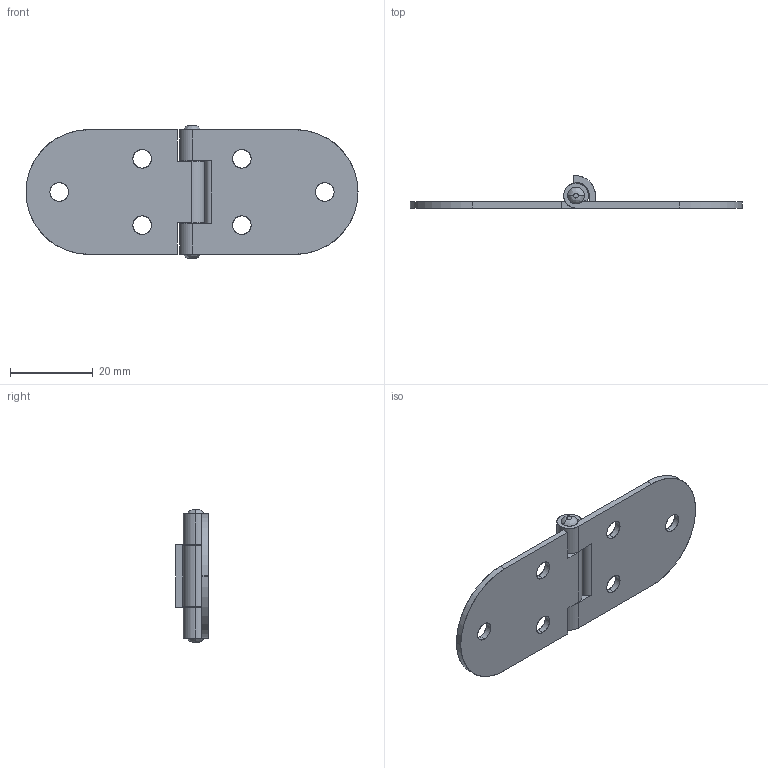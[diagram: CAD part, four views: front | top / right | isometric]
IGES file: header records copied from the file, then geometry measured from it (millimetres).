
Start section: SolidWorks IGES file using analytic representation for surfaces
Global section: file name: C:\Users\cbrechard\Desktop\CA 408.IGS; native system: SolidWorks 2017; preprocessor: SolidWorks 2017; author: cbrechard; date: 190909.113700; units: millimetre
Bounding box: 80 x 7.8 x 32 mm (x, y, z)
Surface area: 5930.2 mm2 (no closed solid volume)
Topology: 0 solids, 0 shells, 69 faces, 1304 edges, 1304 vertices
Faces by surface type: revolution 39, bspline 30
